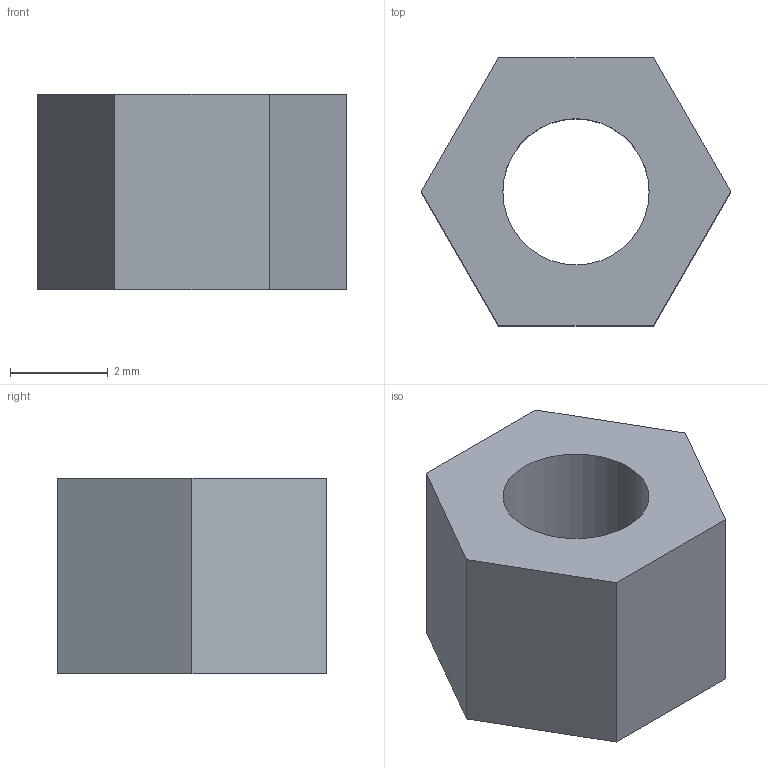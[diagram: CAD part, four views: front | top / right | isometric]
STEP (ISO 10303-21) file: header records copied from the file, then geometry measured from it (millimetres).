
FILE_DESCRIPTION(('Open CASCADE Model'),'2;1');
FILE_NAME('Open CASCADE Shape Model','2026-11-14T12:29:53',('Author'),( 'Open CASCADE'),'Open CASCADE STEP processor 8.0','Open CASCADE 8.0' ,'Unknown');
FILE_SCHEMA(('AUTOMOTIVE_DESIGN { 1 0 10303 214 1 1 1 1 }'));
Length unit declared in the file: millimetre
Products named in the file (1): Open CASCADE STEP translator 8.0 9
Bounding box: 6.35 x 5.5 x 4 mm (x, y, z)
Volume: 76.5 mm3; surface area: 152.2 mm2
Topology: 1 solids, 1 shells, 9 faces, 21 edges, 14 vertices
Faces by surface type: plane 8, cylinder 1
Full cylindrical faces by diameter (mm): 3 x1
Entity records: 544 total; most frequent: CARTESIAN_POINT 87, DIRECTION 85, LINE 59, VECTOR 59, ORIENTED_EDGE 42, PCURVE 42, DEFINITIONAL_REPRESENTATION 42, EDGE_CURVE 21
